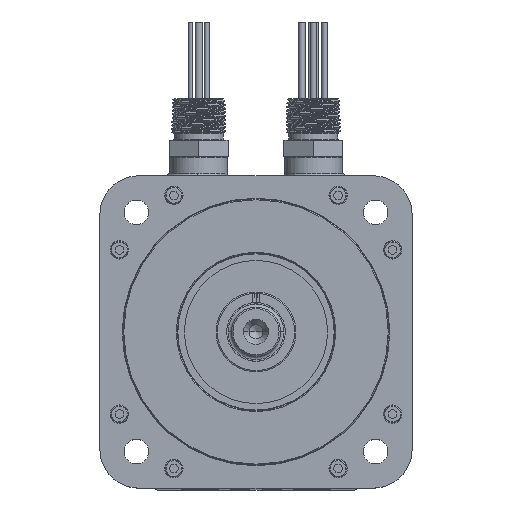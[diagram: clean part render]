
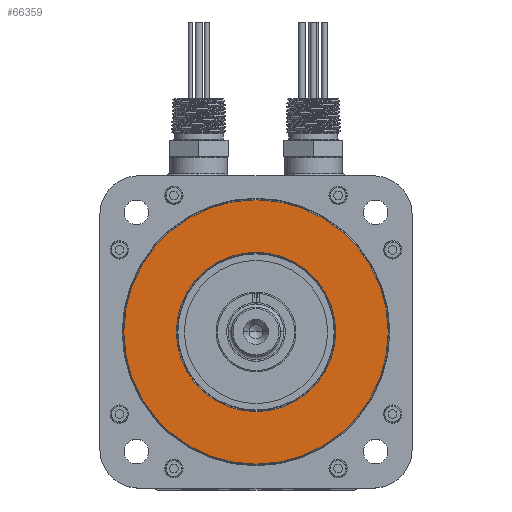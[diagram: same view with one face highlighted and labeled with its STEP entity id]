
A CAD part, top view. The second image highlights one B-rep face of the part: STEP entity #66359.
In plain terms, the highlighted planar face has unit normal (0, 0, 1).
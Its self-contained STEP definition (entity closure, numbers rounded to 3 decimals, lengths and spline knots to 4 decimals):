
#149 = EDGE_CURVE ( 'NONE', #38160, #2973, #26714, .T. ) ;
#467 = CARTESIAN_POINT ( 'NONE',  ( -2.5391, 0., 0. ) ) ;
#693 = CARTESIAN_POINT ( 'NONE',  ( 0., 0., 0. ) ) ;
#1443 = VERTEX_POINT ( 'NONE', #16548 ) ;
#1912 = DIRECTION ( 'NONE',  ( 1., 0., 0. ) ) ;
#2514 = AXIS2_PLACEMENT_3D ( 'NONE', #49962, #14296, #55958 ) ;
#2850 = EDGE_CURVE ( 'NONE', #12061, #1443, #56326, .T. ) ;
#2973 = VERTEX_POINT ( 'NONE', #67387 ) ;
#4378 = EDGE_CURVE ( 'NONE', #2973, #38160, #7533, .T. ) ;
#6239 = CARTESIAN_POINT ( 'NONE',  ( 0., 0., 0. ) ) ;
#6435 = EDGE_LOOP ( 'NONE', ( #72098, #52326 ) ) ;
#7533 = CIRCLE ( 'NONE', #61772, 2.5391 ) ;
#12061 = VERTEX_POINT ( 'NONE', #31603 ) ;
#13960 = FACE_OUTER_BOUND ( 'NONE', #72861, .T. ) ;
#14296 = DIRECTION ( 'NONE',  ( 0., 0., 1. ) ) ;
#15034 = DIRECTION ( 'NONE',  ( 0., 0., 1. ) ) ;
#15799 = DIRECTION ( 'NONE',  ( 1., 0., 0. ) ) ;
#16548 = CARTESIAN_POINT ( 'NONE',  ( 1.5305, 0., 0. ) ) ;
#18185 = CARTESIAN_POINT ( 'NONE',  ( 0., 0., 0. ) ) ;
#18271 = ORIENTED_EDGE ( 'NONE', *, *, #4378, .T. ) ;
#22162 = DIRECTION ( 'NONE',  ( 0., 0., 1. ) ) ;
#25156 = AXIS2_PLACEMENT_3D ( 'NONE', #18185, #22162, #1912 ) ;
#26714 = CIRCLE ( 'NONE', #25156, 2.5391 ) ;
#28136 = PLANE ( 'NONE',  #60047 ) ;
#31603 = CARTESIAN_POINT ( 'NONE',  ( -1.5305, 0., 0. ) ) ;
#33851 = DIRECTION ( 'NONE',  ( 1., 0., 0. ) ) ;
#36488 = DIRECTION ( 'NONE',  ( 0., 0., 1. ) ) ;
#38160 = VERTEX_POINT ( 'NONE', #467 ) ;
#40079 = DIRECTION ( 'NONE',  ( 1., 0., 0. ) ) ;
#49962 = CARTESIAN_POINT ( 'NONE',  ( 0., 0., 0. ) ) ;
#50643 = ORIENTED_EDGE ( 'NONE', *, *, #149, .T. ) ;
#52326 = ORIENTED_EDGE ( 'NONE', *, *, #2850, .F. ) ;
#55958 = DIRECTION ( 'NONE',  ( 1., 0., 0. ) ) ;
#56326 = CIRCLE ( 'NONE', #61203, 1.5305 ) ;
#60047 = AXIS2_PLACEMENT_3D ( 'NONE', #69858, #75891, #40079 ) ;
#61203 = AXIS2_PLACEMENT_3D ( 'NONE', #6239, #36488, #15799 ) ;
#61475 = FACE_BOUND ( 'NONE', #6435, .T. ) ;
#61772 = AXIS2_PLACEMENT_3D ( 'NONE', #693, #15034, #33851 ) ;
#62321 = CIRCLE ( 'NONE', #2514, 1.5305 ) ;
#66359 = ADVANCED_FACE ( 'NONE', ( #13960, #61475 ), #28136, .T. ) ;
#67387 = CARTESIAN_POINT ( 'NONE',  ( 2.5391, 0., 0. ) ) ;
#69858 = CARTESIAN_POINT ( 'NONE',  ( 0., 1.5305, 0. ) ) ;
#72098 = ORIENTED_EDGE ( 'NONE', *, *, #74274, .F. ) ;
#72861 = EDGE_LOOP ( 'NONE', ( #50643, #18271 ) ) ;
#74274 = EDGE_CURVE ( 'NONE', #1443, #12061, #62321, .T. ) ;
#75891 = DIRECTION ( 'NONE',  ( 0., 0., 1. ) ) ;
